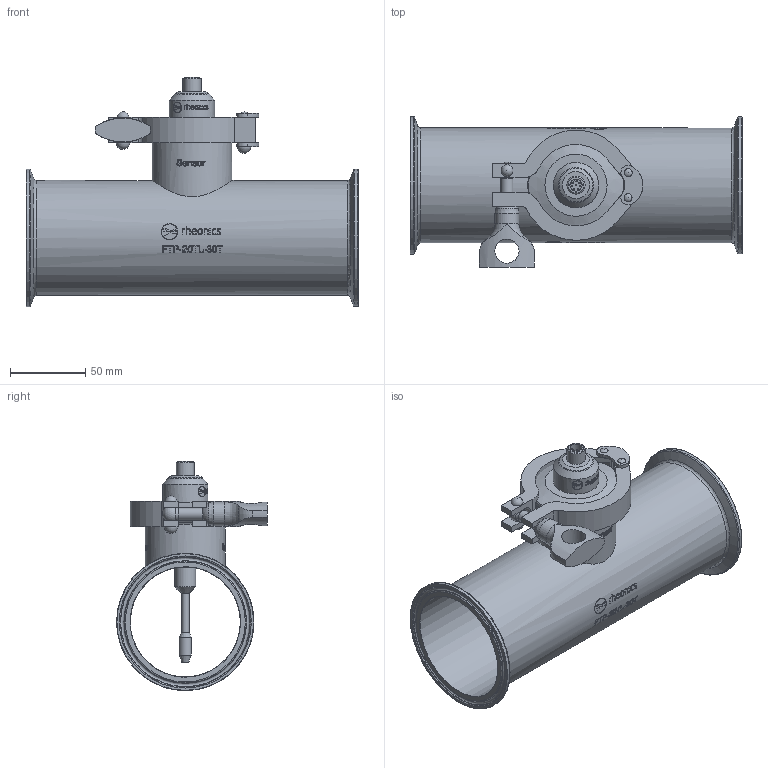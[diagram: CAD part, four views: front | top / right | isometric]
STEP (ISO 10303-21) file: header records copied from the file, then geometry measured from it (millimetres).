
FILE_DESCRIPTION(/* description */ ('Unknown'),/* implementation_level */ '2;1');
FILE_NAME(/* name */ 'SRV-FTP-20TL-30T',/* time_stamp */ '2024-12-26T12:26:40-05:00',/* author */ ('Unknown'),/* organization */ ('Unknown'),/* preprocessor_version */ 'ST-DEVELOPER v16.7',/* originating_system */ 'Solid Edge',/* authorisation */ 'Unknown');
FILE_SCHEMA (('AUTOMOTIVE_DESIGN {1 0 10303 214 3 1 1}'));
Length unit declared in the file: millimetre
Products named in the file (5): SRV-FTP-20TL-30T; FTP-20TL-30T; TC-20T-Seal; TC_2inch_Seal_Clamp; SRV-HD-X3-A99-B20T
Assembly tree (4 placements, depth 2):
  SRV-FTP-20TL-30T
    FTP-20TL-30T
    TC-20T-Seal
    TC_2inch_Seal_Clamp
    SRV-HD-X3-A99-B20T
Bounding box: 220 x 99.89 x 151.93 mm (x, y, z)
Volume: 200239.5 mm3; surface area: 158949.1 mm2
Topology: 4 solids, 4 shells, 783 faces, 1995 edges, 1303 vertices
Faces by surface type: bspline 301, plane 252, cylinder 150, torus 40, cone 25, sphere 15
Full cylindrical faces by diameter (mm): 0.8 x8, 5.019 x1, 7.938 x1, 8 x2, 12 x1, 13.9 x1, 15.873 x1, 16 x1, 30 x2, 50 x1, 50.2 x1, 53 x1, 64 x3, 72.9 x1, 76.2 x1, 91 x2
Entity records: 55667 total; most frequent: CARTESIAN_POINT 34319, ORIENTED_EDGE 3664, DIRECTION 2537, EDGE_CURVE 1832, VERTEX_POINT 1267, EDGE_LOOP 1009, FACE_BOUND 1009, AXIS2_PLACEMENT_3D 892
